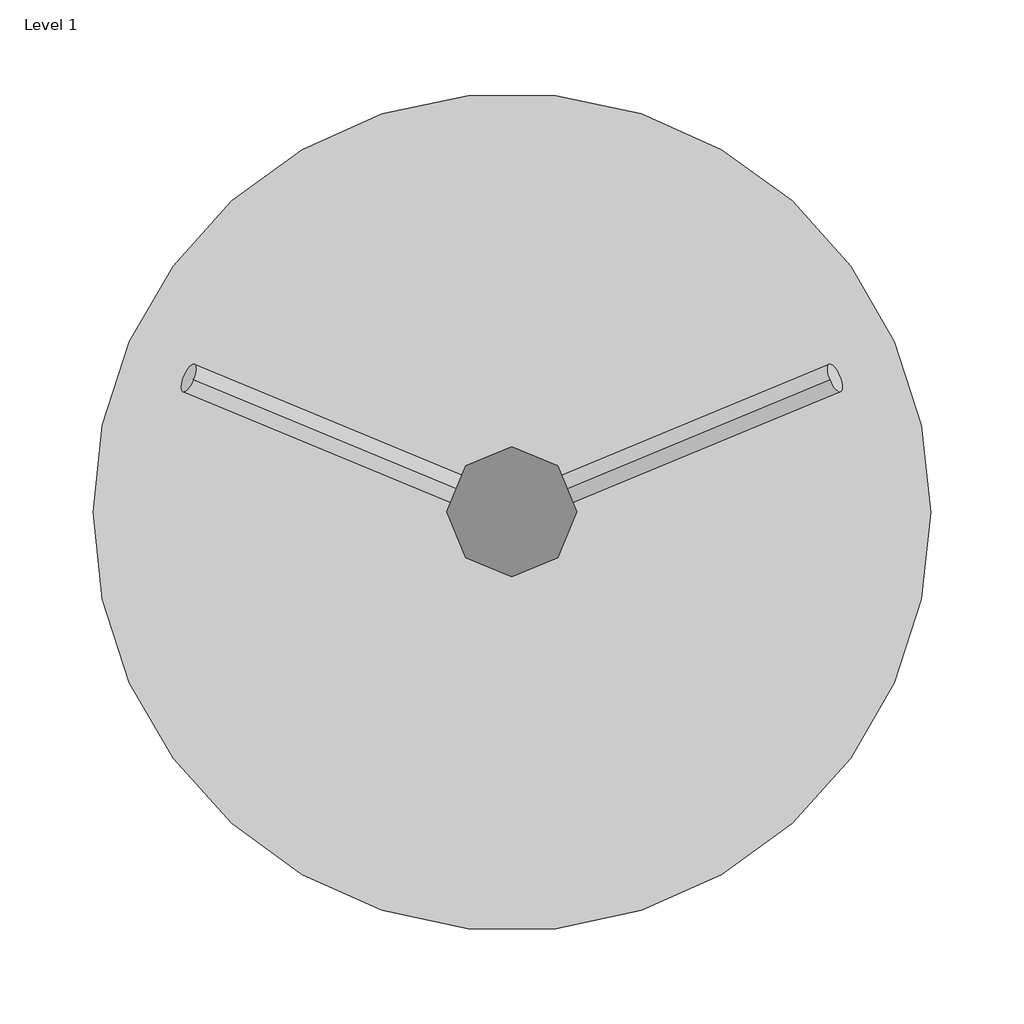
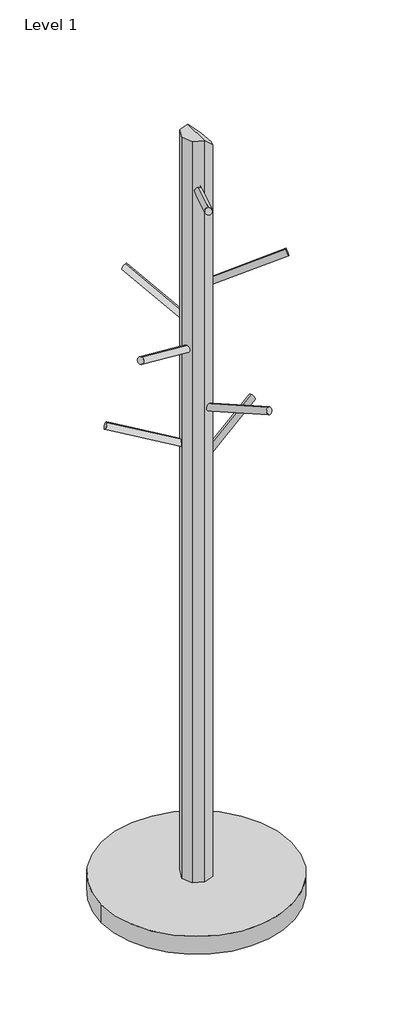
# One storey: 1 furniture element.
"""IFC4 building model written with IfcOpenShell, lengths in millimetres."""

from ifc_helpers import new_model, si_unit, origin, place, context, project, spatial, transform, mapped, element, save
from components import furniture_604881e0

model = new_model("IFC4")

# Units and contexts
model_context = context("Model", 3, world=origin())
ifc_project = project(units=[si_unit("LENGTHUNIT", "METRE", prefix="MILLI")], contexts=[model_context])

# Site, building, storey
site = spatial("IfcSite", under=ifc_project)
building = spatial("IfcBuilding", under=site)
storey = spatial("IfcBuildingStorey", under=building, Name="Level 1", Elevation=0.0)

# Furniture
placement = place(None, origin())
furniture_shape = furniture_604881e0(model_context)
element("IfcFurniture", 1, ObjectType="Otto clock stand : Otto clock stand", at=placement, inside=storey, context=model_context, shape_type="MappedRepresentation", body=[
    mapped(furniture_shape, transform((-1655.1560779, 2831.0371303, 0.0), x_axis=(1.0, 0.0, 0.0), y_axis=(0.0, 1.0, 0.0), z_axis=(0.0, 0.0, 1.0))),
])

save(model, "model.ifc")
